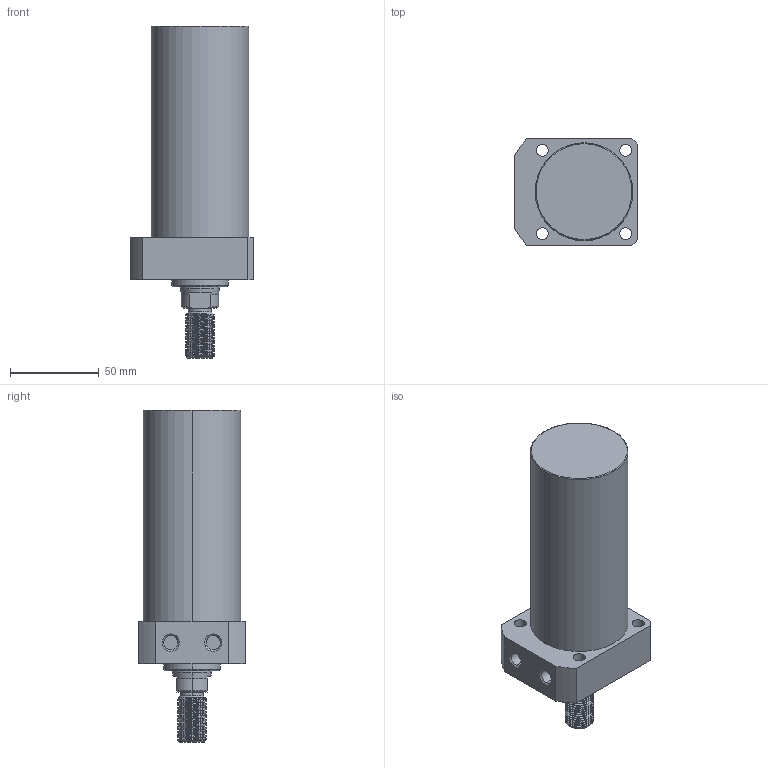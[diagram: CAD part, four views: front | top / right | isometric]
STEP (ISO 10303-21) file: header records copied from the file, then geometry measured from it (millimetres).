
FILE_DESCRIPTION (( 'STEP AP214' ), '1' );
FILE_NAME ('CLLR-055CT-090.STEP', '2020-01-10T00:49:26', ( 'Windows' ), ( 'Microsoft' ), 'SwSTEP 2.0', 'SolidWorks 2015', '' );
FILE_SCHEMA (( 'AUTOMOTIVE_DESIGN' ));
Length unit declared in the file: millimetre
Products named in the file (1): CLLR-055CT-090
Bounding box: 69 x 60 x 187 mm (x, y, z)
Volume: 387496.8 mm3; surface area: 40328.4 mm2
Topology: 1 solids, 1 shells, 101 faces, 259 edges, 168 vertices
Faces by surface type: cylinder 62, plane 20, cone 15, torus 2, bspline 2
Entity records: 5020 total; most frequent: CARTESIAN_POINT 2630, ORIENTED_EDGE 518, DIRECTION 458, EDGE_CURVE 259, AXIS2_PLACEMENT_3D 180, VERTEX_POINT 168, EDGE_LOOP 117, ADVANCED_FACE 101
